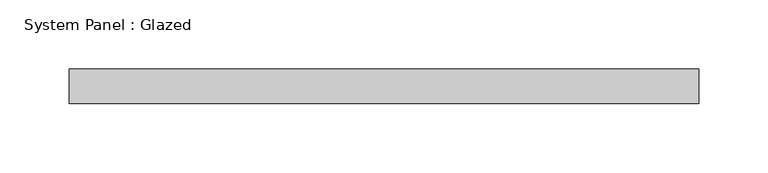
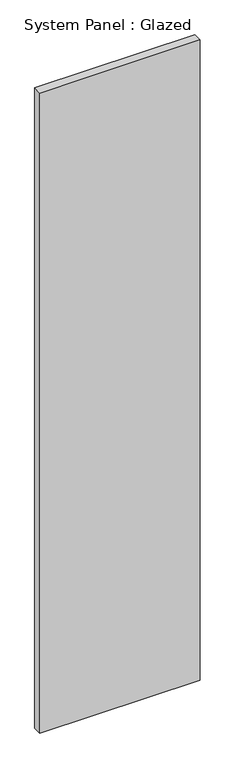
"""IFC4 building model written with IfcOpenShell, lengths in millimetres: plate geometry, System Panel : Glazed."""

from ifc_helpers import new_model, si_unit, origin, origin_with_axes, place, context, project, spatial, polyline, outline, extrude, source, transform, mapped, element, save


def system_panel_glazed_f73eb5fe(model_context):
    return source(origin(), model_context, "Body", "SweptSolid", [
        extrude(outline(polyline([(227.6287053, 24.5), (-227.6287053, 24.5), (-227.6287053, 49.5), (227.6287053, 49.5), (227.6287053, 24.5)])), origin_with_axes(), (0.0, 0.0, 1.0), 1922.2919866),
    ])


if __name__ == "__main__":
    model = new_model("IFC4")
    model_context = context("Model", 3, world=origin())
    ifc_project = project(units=[si_unit("LENGTHUNIT", "METRE", prefix="MILLI")], contexts=[model_context])
    site = spatial("IfcSite", under=ifc_project)
    building = spatial("IfcBuilding", under=site)
    placement = place(None, origin())
    system_panel_glazed_shape = system_panel_glazed_f73eb5fe(model_context)
    element("IfcPlate", 1, ObjectType="System Panel : Glazed", at=placement, inside=building, context=model_context, shape_type="MappedRepresentation", body=[
        mapped(system_panel_glazed_shape, transform((0.0, 0.0, 0.0), x_axis=(1.0, 0.0, 0.0), y_axis=(0.0, 1.0, 0.0), z_axis=(0.0, 0.0, 1.0))),
    ])
    save(model, "model.ifc")
